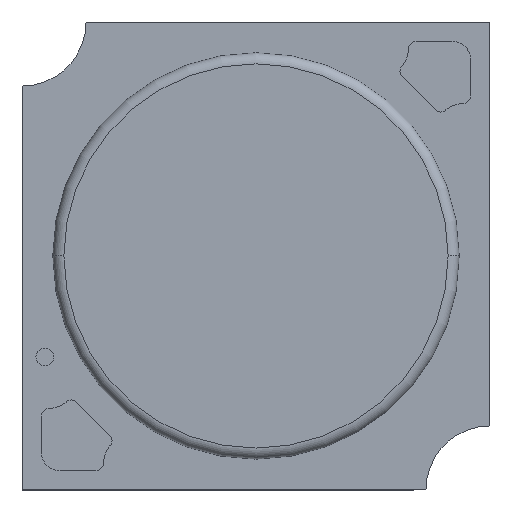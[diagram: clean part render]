
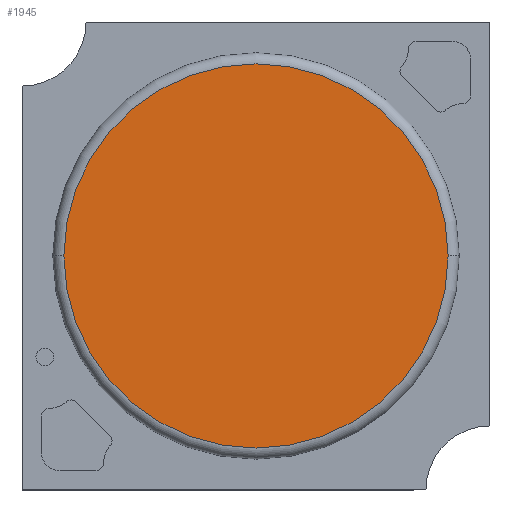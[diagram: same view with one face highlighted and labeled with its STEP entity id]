
A CAD part, top view. The second image highlights one B-rep face of the part: STEP entity #1945.
In plain terms, the highlighted planar face has unit normal (0, 0, 1).
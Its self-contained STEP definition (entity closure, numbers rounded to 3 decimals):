
#829=CARTESIAN_POINT('',(0.,0.,1.4));
#830=DIRECTION('',(0.,0.,-1.));
#831=DIRECTION('',(-1.,0.,0.));
#832=AXIS2_PLACEMENT_3D('',#829,#830,#831);
#853=CARTESIAN_POINT('',(0.,0.,1.4));
#854=DIRECTION('',(0.,0.,-1.));
#855=DIRECTION('',(1.,0.,0.));
#856=AXIS2_PLACEMENT_3D('',#853,#854,#855);
#1025=CARTESIAN_POINT('',(-7.8,0.,1.4));
#1026=CARTESIAN_POINT('',(7.8,0.,1.4));
#1027=VERTEX_POINT('',#1025);
#1028=VERTEX_POINT('',#1026);
#1935=CARTESIAN_POINT('',(0.,0.,1.4));
#1936=DIRECTION('',(0.,0.,-1.));
#1937=DIRECTION('',(-1.,0.,0.));
#1938=AXIS2_PLACEMENT_3D('',#1935,#1936,#1937);
#1939=PLANE('',#1938);
#1940=ORIENTED_EDGE('',*,*,#1918,.T.);
#1942=ORIENTED_EDGE('',*,*,#1941,.T.);
#1943=EDGE_LOOP('',(#1940,#1942));
#1944=FACE_OUTER_BOUND('',#1943,.F.);
#833=CIRCLE('',#832,7.8);
#857=CIRCLE('',#856,7.8);
#1918=EDGE_CURVE('',#1027,#1028,#833,.T.);
#1941=EDGE_CURVE('',#1028,#1027,#857,.T.);
#1945=ADVANCED_FACE('',(#1944),#1939,.F.);
